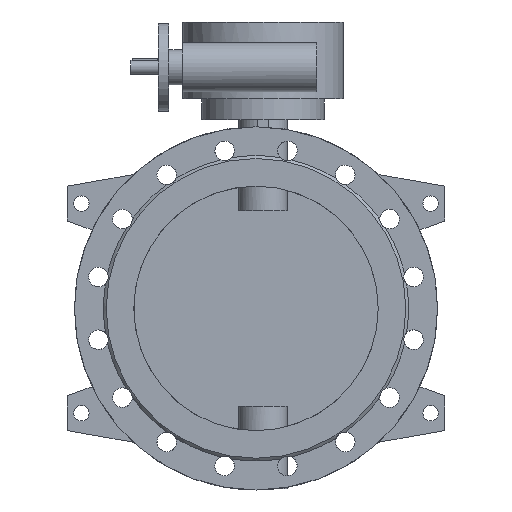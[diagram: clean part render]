
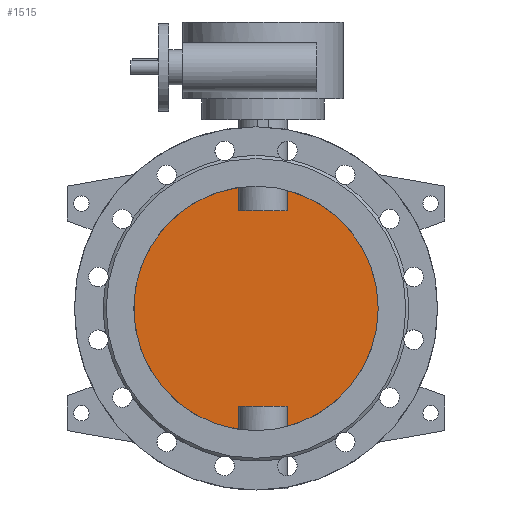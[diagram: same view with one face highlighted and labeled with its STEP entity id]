
A CAD part, front view. The second image highlights one B-rep face of the part: STEP entity #1515.
In plain terms, the highlighted planar face has unit normal (0, -1, 0).
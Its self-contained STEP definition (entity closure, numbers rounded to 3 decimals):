
#1515=ADVANCED_FACE('',(#3067),#3069,.F.);
#3067=FACE_BOUND('',#3068,.T.);
#3068=EDGE_LOOP('',(#4100,#4101,#4102,#4103,#4104,#4105,#4106,#4107));
#3069=PLANE('',#3070);
#3070=AXIS2_PLACEMENT_3D('',#3071,#3072,#3073);
#3071=CARTESIAN_POINT('',(0.,-5.,0.));
#3072=DIRECTION('',(0.,1.,0.));
#3073=DIRECTION('',(1.,0.,0.));
#4100=ORIENTED_EDGE('',*,*,#4612,.T.);
#4101=ORIENTED_EDGE('',*,*,#4622,.T.);
#4102=ORIENTED_EDGE('',*,*,#4623,.T.);
#4103=ORIENTED_EDGE('',*,*,#4624,.T.);
#4104=ORIENTED_EDGE('',*,*,#4614,.T.);
#4105=ORIENTED_EDGE('',*,*,#4625,.T.);
#4106=ORIENTED_EDGE('',*,*,#4626,.T.);
#4107=ORIENTED_EDGE('',*,*,#4627,.T.);
#4612=EDGE_CURVE('',#5439,#5440,#5441,.F.);
#4614=EDGE_CURVE('',#5444,#5442,#5445,.F.);
#4622=EDGE_CURVE('',#5440,#5459,#5460,.T.);
#4623=EDGE_CURVE('',#5459,#5461,#5462,.F.);
#4624=EDGE_CURVE('',#5461,#5444,#5463,.F.);
#4625=EDGE_CURVE('',#5442,#5464,#5465,.F.);
#4626=EDGE_CURVE('',#5464,#5466,#5467,.F.);
#4627=EDGE_CURVE('',#5466,#5439,#5468,.T.);
#5439=VERTEX_POINT('',#10993);
#5440=VERTEX_POINT('',#10994);
#5441=CIRCLE('',#10995,175.);
#5442=VERTEX_POINT('',#10999);
#5444=VERTEX_POINT('',#11097);
#5445=CIRCLE('',#11098,175.);
#5459=VERTEX_POINT('',#11243);
#5460=LINE('',#11244,#11245);
#5461=VERTEX_POINT('',#11247);
#5462=LINE('',#11248,#11249);
#5463=LINE('',#11251,#11252);
#5464=VERTEX_POINT('',#11254);
#5465=LINE('',#11255,#11256);
#5466=VERTEX_POINT('',#11258);
#5467=LINE('',#11259,#11260);
#5468=LINE('',#11262,#11263);
#10993=CARTESIAN_POINT('',(44.641,-5.,-169.21));
#10994=CARTESIAN_POINT('',(44.641,-5.,169.21));
#10995=AXIS2_PLACEMENT_3D('',#10996,#10997,#10998);
#10996=CARTESIAN_POINT('',(0.,-5.,0.));
#10997=DIRECTION('',(0.,1.,0.));
#10998=DIRECTION('',(0.255,0.,0.967));
#10999=CARTESIAN_POINT('',(-24.641,-5.,-173.257));
#11097=CARTESIAN_POINT('',(-24.641,-5.,173.257));
#11098=AXIS2_PLACEMENT_3D('',#11099,#11100,#11101);
#11099=CARTESIAN_POINT('',(0.,-5.,0.));
#11100=DIRECTION('',(0.,1.,0.));
#11101=DIRECTION('',(-0.141,0.,-0.99));
#11243=CARTESIAN_POINT('',(44.641,-5.,140.));
#11244=CARTESIAN_POINT('',(44.641,-5.,169.21));
#11245=VECTOR('',#11246,1.);
#11246=DIRECTION('',(0.,0.,-1.));
#11247=CARTESIAN_POINT('',(-24.641,-5.,140.));
#11248=CARTESIAN_POINT('',(-24.641,-5.,140.));
#11249=VECTOR('',#11250,1.);
#11250=DIRECTION('',(1.,0.,0.));
#11251=CARTESIAN_POINT('',(-24.641,-5.,173.257));
#11252=VECTOR('',#11253,1.);
#11253=DIRECTION('',(0.,0.,-1.));
#11254=CARTESIAN_POINT('',(-24.641,-5.,-140.));
#11255=CARTESIAN_POINT('',(-24.641,-5.,-140.));
#11256=VECTOR('',#11257,1.);
#11257=DIRECTION('',(0.,0.,-1.));
#11258=CARTESIAN_POINT('',(44.641,-5.,-140.));
#11259=CARTESIAN_POINT('',(44.641,-5.,-140.));
#11260=VECTOR('',#11261,1.);
#11261=DIRECTION('',(-1.,0.,0.));
#11262=CARTESIAN_POINT('',(44.641,-5.,-140.));
#11263=VECTOR('',#11264,1.);
#11264=DIRECTION('',(0.,0.,-1.));
